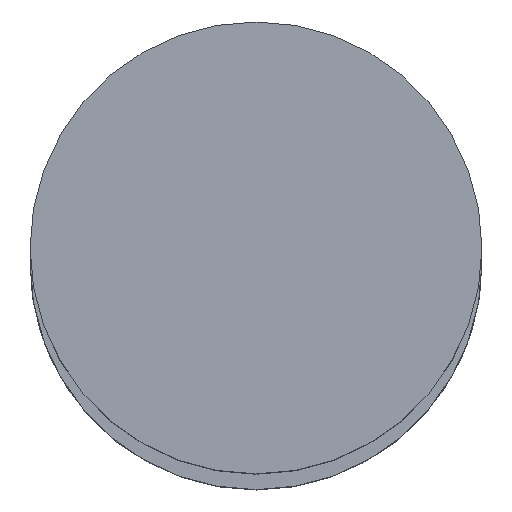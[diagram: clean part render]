
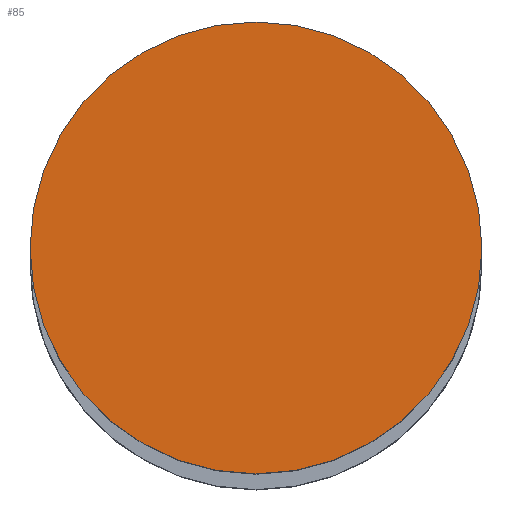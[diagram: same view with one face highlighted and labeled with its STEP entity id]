
A CAD part, top view. The second image highlights one B-rep face of the part: STEP entity #85.
In plain terms, the highlighted planar face has unit normal (0, 0, 1).
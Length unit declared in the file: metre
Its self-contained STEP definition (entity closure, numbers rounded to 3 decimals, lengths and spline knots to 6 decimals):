
#85=ADVANCED_FACE('56:4857',(#165),#166,.F.);
#165=FACE_OUTER_BOUND('',#244,.T.);
#166=PLANE('',#245);
#244=EDGE_LOOP('',(#390,#391));
#245=AXIS2_PLACEMENT_3D('',#392,#393,#394);
#390=ORIENTED_EDGE('',*,*,#433,.F.);
#391=ORIENTED_EDGE('',*,*,#478,.F.);
#392=CARTESIAN_POINT('',(-0.000092,0.000095,3.354));
#393=DIRECTION('',(0.0,0.0,-1.0));
#394=DIRECTION('',(1.0,0.0,0.0));
#433=EDGE_CURVE('27:1418',#505,#501,#507,.T.);
#478=EDGE_CURVE('',#501,#505,#572,.T.);
#501=VERTEX_POINT('',#607);
#505=VERTEX_POINT('',#612);
#507=CIRCLE('',#615,0.0155);
#572=CIRCLE('',#694,0.0155);
#607=CARTESIAN_POINT('',(0.015408,0.000095,3.354));
#612=CARTESIAN_POINT('',(-0.015592,0.000095,3.354));
#615=AXIS2_PLACEMENT_3D('',#736,#737,#738);
#694=AXIS2_PLACEMENT_3D('',#801,#802,#803);
#736=CARTESIAN_POINT('',(-0.000092,0.000095,3.354));
#737=DIRECTION('',(0.0,0.0,-1.0));
#738=DIRECTION('',(1.0,0.0,0.0));
#801=CARTESIAN_POINT('',(-0.000092,0.000095,3.354));
#802=DIRECTION('',(0.0,0.0,-1.0));
#803=DIRECTION('',(1.0,0.0,0.0));
